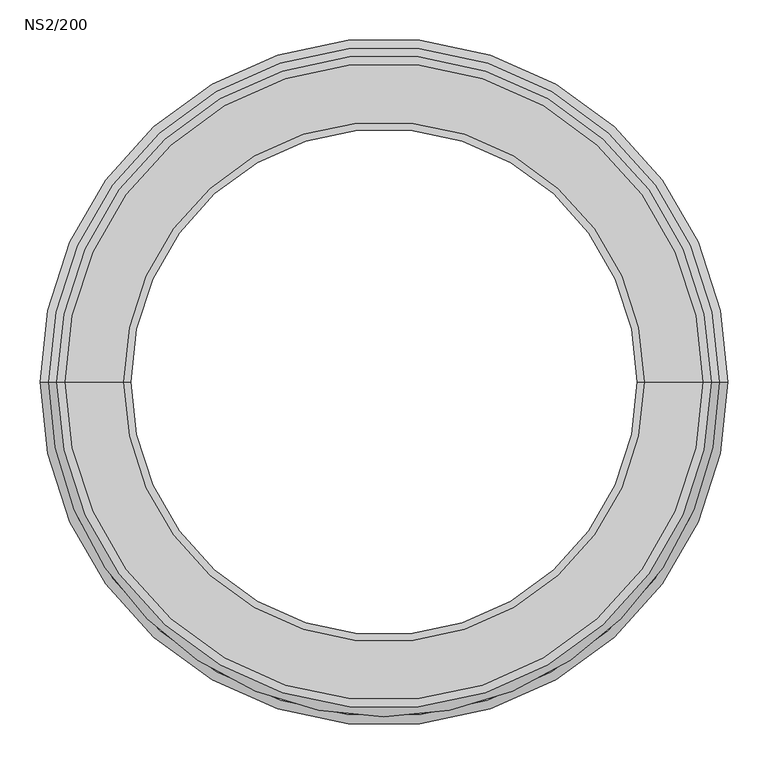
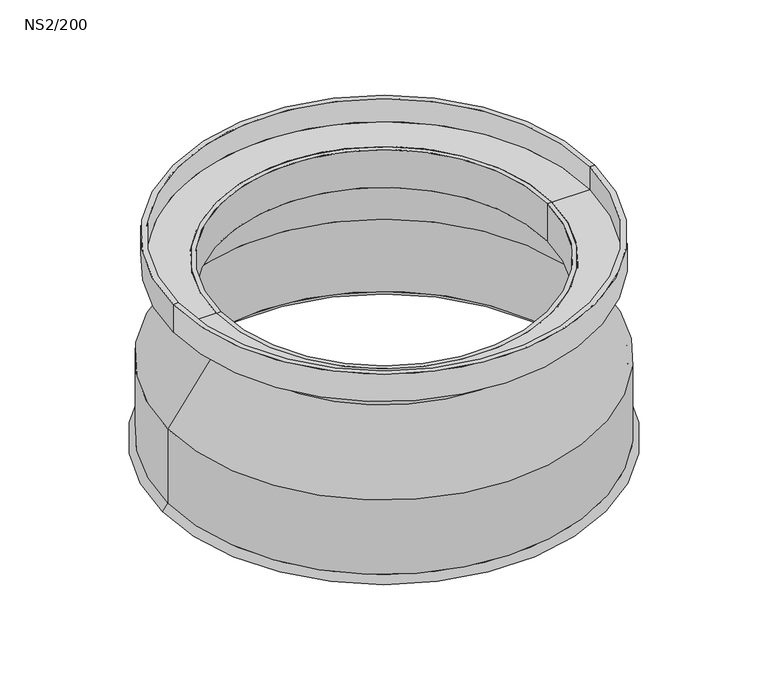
"""IFC4 building model written with IfcOpenShell, lengths in millimetres: proxy geometry, ME_PE_UN_Lipumax-PSD_ACO : NS2/200."""

from ifc_helpers import new_model, si_unit, frame, origin, place, context, project, spatial, polyline, circle_curve, source, transform, mapped, element, save
from ifc_brep_helpers import plane_surface, cylinder_surface, revolved_surface, advanced_brep


def ns2_200_69843ea5(model_context):
    return source(origin(), model_context, "Body", "AdvancedBrep", [
        advanced_brep(
        [(408.0, 0.0, -38.875), (-408.0, 0.0, -38.875), (-398.0, 0.0, -38.875), (398.0, 0.0, -38.875), (408.0, 0.0, -94.875), (-408.0, 0.0, -94.875), (325.0, 0.0, -94.875), (-325.0, 0.0, -94.875), (325.0, 0.0, -85.875), (-325.0, 0.0, -85.875), (398.0, 0.0, -85.875), (-398.0, 0.0, -85.875)],
        [
            (0, 1, circle_curve(frame((0.0, 0.0, -38.875), z_axis=(0.0, 0.0, 1.0), x_axis=(-1.0, 0.0, 0.0)), 408.0)),
            (1, 2),
            (2, 3, circle_curve(frame((0.0, 0.0, -38.875), z_axis=(0.0, 0.0, -1.0), x_axis=(-1.0, 0.0, 0.0)), 398.0)),
            (3, 0),
            (1, 0, circle_curve(frame((0.0, 0.0, -38.875), z_axis=(0.0, 0.0, 1.0), x_axis=(-1.0, 0.0, 0.0)), 408.0)),
            (3, 2, circle_curve(frame((0.0, 0.0, -38.875), z_axis=(0.0, 0.0, -1.0), x_axis=(-1.0, 0.0, 0.0)), 398.0)),
            (4, 5, circle_curve(frame((0.0, 0.0, -94.875), z_axis=(0.0, 0.0, 1.0), x_axis=(-1.0, 0.0, 0.0)), 408.0)),
            (5, 1),
            (0, 4),
            (5, 4, circle_curve(frame((0.0, 0.0, -94.875), z_axis=(0.0, 0.0, 1.0), x_axis=(-1.0, 0.0, 0.0)), 408.0)),
            (6, 7, circle_curve(frame((0.0, 0.0, -94.875), z_axis=(0.0, 0.0, 1.0), x_axis=(-1.0, 0.0, 0.0)), 325.0)),
            (7, 5),
            (4, 6),
            (7, 6, circle_curve(frame((0.0, 0.0, -94.875), z_axis=(0.0, 0.0, 1.0), x_axis=(-1.0, 0.0, 0.0)), 325.0)),
            (8, 9, circle_curve(frame((0.0, 0.0, -85.875), z_axis=(0.0, 0.0, 1.0), x_axis=(-1.0, 0.0, 0.0)), 325.0)),
            (9, 7),
            (6, 8),
            (9, 8, circle_curve(frame((0.0, 0.0, -85.875), z_axis=(0.0, 0.0, 1.0), x_axis=(-1.0, 0.0, 0.0)), 325.0)),
            (10, 11, circle_curve(frame((0.0, 0.0, -85.875), z_axis=(0.0, 0.0, 1.0), x_axis=(-1.0, 0.0, 0.0)), 398.0)),
            (11, 9),
            (8, 10),
            (11, 10, circle_curve(frame((0.0, 0.0, -85.875), z_axis=(0.0, 0.0, 1.0), x_axis=(-1.0, 0.0, 0.0)), 398.0)),
            (2, 11),
            (10, 3),
        ],
        [
            plane_surface(frame((0.0, 0.0, -38.875), z_axis=(0.0, 0.0, 1.0), x_axis=(-1.0, 0.0, 0.0))),
            cylinder_surface(frame((0.0, 0.0, 81.125), z_axis=(0.0, 0.0, -1.0), x_axis=(-1.0, 0.0, 0.0)), 408.0),
            plane_surface(frame((0.0, 0.0, -94.875), z_axis=(0.0, 0.0, -1.0), x_axis=(-1.0, 0.0, 0.0))),
            revolved_surface(polyline([(-325.0, 0.0, -94.875), (-325.0, 0.0, -85.875)]), (0.0, 0.0, 81.125), (0.0, 0.0, -1.0)),
            plane_surface(frame((0.0, 0.0, -85.875), z_axis=(0.0, 0.0, 1.0), x_axis=(-1.0, 0.0, 0.0))),
            revolved_surface(polyline([(-398.0, 0.0, -85.875), (-398.0, 0.0, -38.875)]), (0.0, 0.0, 81.125), (0.0, 0.0, -1.0)),
        ],
        [
            (0, [[1, 2, 3, 4]]),
            (0, [[5, -4, 6, -2]]),
            (1, [[7, 8, -1, 9]]),
            (1, [[10, -9, -5, -8]]),
            (2, [[11, 12, -7, 13]]),
            (2, [[14, -13, -10, -12]]),
            (3, [[15, 16, -11, 17]]),
            (3, [[18, -17, -14, -16]]),
            (4, [[19, 20, -15, 21]]),
            (4, [[22, -21, -18, -20]]),
            (5, [[-3, 23, -19, 24]]),
            (5, [[-6, -24, -22, -23]]),
        ],
    ),
        advanced_brep(
        [(-316.0, 0.0, -162.9538795), (316.0, 0.0, -162.9538795), (316.0, 0.0, -86.0), (-316.0, 0.0, -86.0), (-409.0, 0.0, -292.854905), (409.0, 0.0, -292.854905), (-409.0, 0.0, -441.271316), (409.0, 0.0, -441.271316), (-418.0, 0.0, -289.9653211), (418.0, 0.0, -289.9653211), (418.0, 0.0, -441.8907105), (-418.0, 0.0, -441.8907105), (-325.0, 0.0, -160.0642956), (325.0, 0.0, -160.0642956), (-325.0, 0.0, -86.0), (325.0, 0.0, -86.0), (-420.5197337, 0.0, -455.0), (420.5197337, 0.0, -455.0), (-429.0, 0.0, -455.0), (429.0, 0.0, -455.0)],
        [
            (0, 1, circle_curve(frame((0.0, 0.0, -162.9538795), z_axis=(0.0, 0.0, -1.0), x_axis=(1.0, 0.0, 0.0)), 316.0)),
            (1, 2),
            (2, 3, circle_curve(frame((0.0, 0.0, -86.0), z_axis=(0.0, 0.0, 1.0), x_axis=(1.0, 0.0, 0.0)), 316.0)),
            (3, 0),
            (1, 0, circle_curve(frame((0.0, 0.0, -162.9538795), z_axis=(0.0, 0.0, -1.0), x_axis=(1.0, 0.0, 0.0)), 316.0)),
            (3, 2, circle_curve(frame((0.0, 0.0, -86.0), z_axis=(0.0, 0.0, 1.0), x_axis=(1.0, 0.0, 0.0)), 316.0)),
            (4, 5, circle_curve(frame((0.0, 0.0, -292.854905), z_axis=(0.0, 0.0, -1.0), x_axis=(1.0, 0.0, 0.0)), 409.0)),
            (5, 1),
            (0, 4),
            (5, 4, circle_curve(frame((0.0, 0.0, -292.854905), z_axis=(0.0, 0.0, -1.0), x_axis=(1.0, 0.0, 0.0)), 409.0)),
            (6, 7, circle_curve(frame((0.0, 0.0, -441.271316), z_axis=(0.0, 0.0, -1.0), x_axis=(1.0, 0.0, 0.0)), 409.0)),
            (7, 5),
            (4, 6),
            (7, 6, circle_curve(frame((0.0, 0.0, -441.271316), z_axis=(0.0, 0.0, -1.0), x_axis=(1.0, 0.0, 0.0)), 409.0)),
            (8, 9, circle_curve(frame((0.0, 0.0, -289.9653211), z_axis=(0.0, 0.0, -1.0), x_axis=(1.0, 0.0, 0.0)), 418.0)),
            (9, 10),
            (10, 11, circle_curve(frame((0.0, 0.0, -441.8907105), z_axis=(0.0, 0.0, 1.0), x_axis=(1.0, 0.0, 0.0)), 418.0)),
            (11, 8),
            (9, 8, circle_curve(frame((0.0, 0.0, -289.9653211), z_axis=(0.0, 0.0, -1.0), x_axis=(1.0, 0.0, 0.0)), 418.0)),
            (11, 10, circle_curve(frame((0.0, 0.0, -441.8907105), z_axis=(0.0, 0.0, 1.0), x_axis=(1.0, 0.0, 0.0)), 418.0)),
            (12, 13, circle_curve(frame((0.0, 0.0, -160.0642956), z_axis=(0.0, 0.0, -1.0), x_axis=(1.0, 0.0, 0.0)), 325.0)),
            (13, 9),
            (8, 12),
            (13, 12, circle_curve(frame((0.0, 0.0, -160.0642956), z_axis=(0.0, 0.0, -1.0), x_axis=(1.0, 0.0, 0.0)), 325.0)),
            (14, 15, circle_curve(frame((0.0, 0.0, -86.0), z_axis=(0.0, 0.0, -1.0), x_axis=(1.0, 0.0, 0.0)), 325.0)),
            (15, 13),
            (12, 14),
            (15, 14, circle_curve(frame((0.0, 0.0, -86.0), z_axis=(0.0, 0.0, -1.0), x_axis=(1.0, 0.0, 0.0)), 325.0)),
            (16, 17, circle_curve(frame((0.0, 0.0, -455.0), z_axis=(0.0, 0.0, -1.0), x_axis=(1.0, 0.0, 0.0)), 420.5197337)),
            (17, 7),
            (6, 16),
            (17, 16, circle_curve(frame((0.0, 0.0, -455.0), z_axis=(0.0, 0.0, -1.0), x_axis=(1.0, 0.0, 0.0)), 420.5197337)),
            (18, 19, circle_curve(frame((0.0, 0.0, -455.0), z_axis=(0.0, 0.0, -1.0), x_axis=(1.0, 0.0, 0.0)), 429.0)),
            (19, 17),
            (16, 18),
            (19, 18, circle_curve(frame((0.0, 0.0, -455.0), z_axis=(0.0, 0.0, -1.0), x_axis=(1.0, 0.0, 0.0)), 429.0)),
            (10, 19),
            (18, 11),
            (2, 15),
            (14, 3),
        ],
        [
            revolved_surface(polyline([(316.0, 0.0, -86.0), (316.0, 0.0, -162.95387949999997)]), (0.0, 0.0, 576.0), (0.0, 0.0, 1.0)),
            revolved_surface(polyline([(316.0, 0.0, -162.9538795), (409.0, 0.0, -292.854905)]), (0.0, 0.0, 576.0), (0.0, 0.0, 1.0)),
            revolved_surface(polyline([(409.0, 0.0, -292.8549049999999), (409.0, 0.0, -441.27131600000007)]), (0.0, 0.0, 576.0), (0.0, 0.0, 1.0)),
            cylinder_surface(frame((0.0, 0.0, 576.0), z_axis=(0.0, 0.0, 1.0), x_axis=(1.0, 0.0, 0.0)), 418.0),
            revolved_surface(polyline([(418.0, 0.0, -289.9653211), (325.0, 0.0, -160.0642956)]), (0.0, 0.0, 576.0), (0.0, 0.0, 1.0)),
            cylinder_surface(frame((0.0, 0.0, 576.0), z_axis=(0.0, 0.0, 1.0), x_axis=(1.0, 0.0, 0.0)), 325.0),
            revolved_surface(polyline([(409.0, 0.0, -441.271316), (420.5197337, 0.0, -455.0)]), (0.0, 0.0, 576.0), (0.0, 0.0, 1.0)),
            plane_surface(frame((0.0, 0.0, -455.0), z_axis=(0.0, 0.0, -1.0), x_axis=(1.0, 0.0, 0.0))),
            revolved_surface(polyline([(429.0, 0.0, -455.0), (418.0, 0.0, -441.8907105)]), (0.0, 0.0, 576.0), (0.0, 0.0, 1.0)),
            plane_surface(frame((0.0, 0.0, -86.0), z_axis=(0.0, 0.0, 1.0), x_axis=(1.0, 0.0, 0.0))),
        ],
        [
            (0, [[1, 2, 3, 4]]),
            (0, [[5, -4, 6, -2]]),
            (1, [[7, 8, -1, 9]]),
            (1, [[10, -9, -5, -8]]),
            (2, [[11, 12, -7, 13]]),
            (2, [[14, -13, -10, -12]]),
            (3, [[15, 16, 17, 18]]),
            (3, [[19, -18, 20, -16]]),
            (4, [[21, 22, -15, 23]]),
            (4, [[24, -23, -19, -22]]),
            (5, [[25, 26, -21, 27]]),
            (5, [[28, -27, -24, -26]]),
            (6, [[29, 30, -11, 31]]),
            (6, [[32, -31, -14, -30]]),
            (7, [[33, 34, -29, 35]]),
            (7, [[36, -35, -32, -34]]),
            (8, [[-17, 37, -33, 38]]),
            (8, [[-20, -38, -36, -37]]),
            (9, [[-3, 39, -25, 40]]),
            (9, [[-6, -40, -28, -39]]),
        ],
    ),
    ])


if __name__ == "__main__":
    model = new_model("IFC4")
    model_context = context("Model", 3, world=origin())
    ifc_project = project(units=[si_unit("LENGTHUNIT", "METRE", prefix="MILLI")], contexts=[model_context])
    site = spatial("IfcSite", under=ifc_project)
    building = spatial("IfcBuilding", under=site)
    placement = place(None, origin())
    ns2_200_shape = ns2_200_69843ea5(model_context)
    element("IfcBuildingElementProxy", 1, Name="ME_PE_UN_Lipumax-PSD_ACO : NS2/200", ObjectType="ME_PE_UN_Lipumax-PSD_ACO : NS2/200", at=placement, inside=building, context=model_context, shape_type="MappedRepresentation", body=[
        mapped(ns2_200_shape, transform((0.0, 0.0, 0.0), x_axis=(1.0, 0.0, 0.0), y_axis=(0.0, 1.0, 0.0), z_axis=(0.0, 0.0, 1.0))),
    ])
    save(model, "model.ifc")
